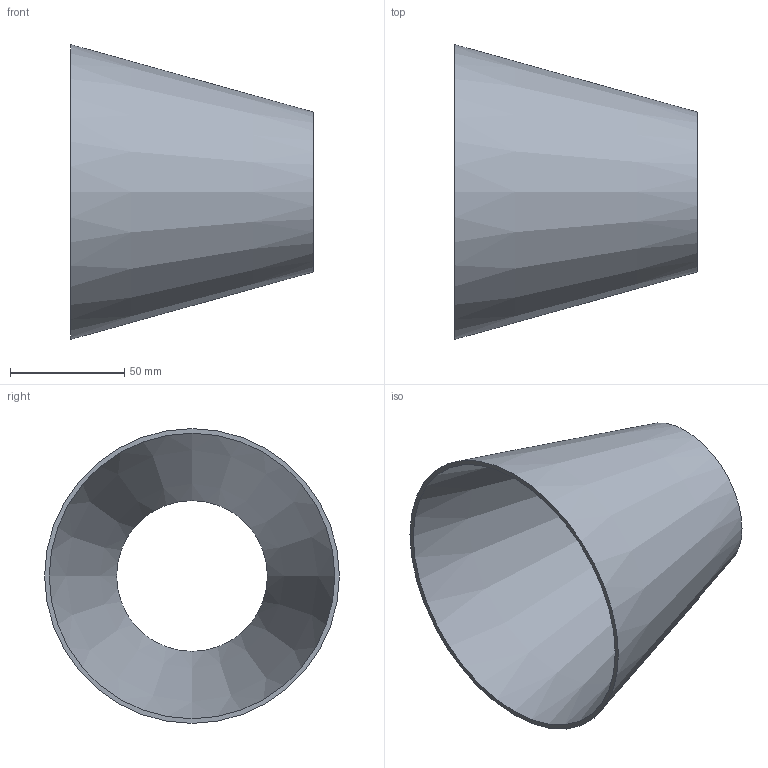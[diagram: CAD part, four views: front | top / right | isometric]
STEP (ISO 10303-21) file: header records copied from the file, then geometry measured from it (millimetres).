
FILE_DESCRIPTION(('FreeCAD Model'),'2;1');
FILE_NAME( '/home/martin/Documents/proyect/accesorios/stp/red-con_DN125-65.step', '2017-12-31T12:23:55',('Author'),(''), 'Open CASCADE STEP processor 6.8','FreeCAD','Unknown');
FILE_SCHEMA(('AUTOMOTIVE_DESIGN_CC2 { 1 2 10303 214 -1 1 5 4 }'));
Length unit declared in the file: millimetre
Products named in the file (1): red-con_DN125-65
Bounding box: 106 x 129 x 129 mm (x, y, z)
Volume: 64936.7 mm3; surface area: 68629.8 mm2
Topology: 1 solids, 1 shells, 4 faces, 6 edges, 4 vertices
Faces by surface type: cone 2, plane 2
Entity records: 191 total; most frequent: CARTESIAN_POINT 33, DIRECTION 26, ORIENTED_EDGE 12, PCURVE 12, DEFINITIONAL_REPRESENTATION 12, AXIS2_PLACEMENT_3D 9, CIRCLE 8, FACE_BOUND 6
